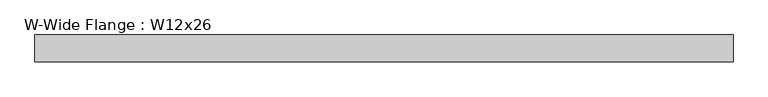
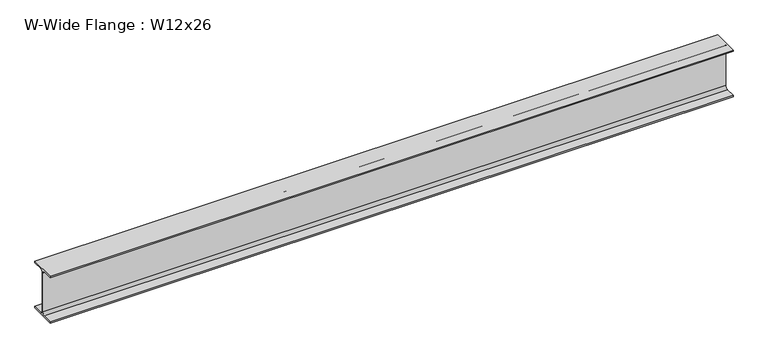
"""IFC4 building model written with IfcOpenShell, lengths in millimetres: beam geometry, W-Wide Flange : W12x26."""

from ifc_helpers import new_model, si_unit, point, frame, frame_2d, origin, place, context, project, spatial, polyline, circle_curve, trimmed, segment, composite_curve, outline, extrude, source, transform, mapped, element, save


def w_wide_flange_w12x26_6214fc0f(model_context):
    return source(origin(), model_context, "Body", "SweptSolid", [
        extrude(outline(composite_curve([segment(polyline([(82.423, -145.288), (82.423, -154.94), (-82.423, -154.94), (-82.423, -145.288), (-20.2565, -145.288)]), True, "CONTINUOUS"), segment(trimmed(circle_curve(frame_2d((-20.2565, -127.9525)), 17.3355), [point((-20.2565, -145.288))], [point((-2.921, -127.9525))], True, "CARTESIAN"), True, "CONTINUOUS"), segment(polyline([(-2.921, -127.9525), (-2.921, 127.9525)]), True, "CONTINUOUS"), segment(trimmed(circle_curve(frame_2d((-20.2565, 127.9525)), 17.3355), [point((-2.921, 127.9525))], [point((-20.2565, 145.288))], True, "CARTESIAN"), True, "CONTINUOUS"), segment(polyline([(-20.2565, 145.288), (-82.423, 145.288), (-82.423, 154.94), (82.423, 154.94), (82.423, 145.288), (20.2565, 145.288)]), True, "CONTINUOUS"), segment(trimmed(circle_curve(frame_2d((20.2565, 127.9525)), 17.3355), [point((20.2565, 145.288))], [point((2.921, 127.9525))], True, "CARTESIAN"), True, "CONTINUOUS"), segment(polyline([(2.921, 127.9525), (2.921, -127.9525)]), True, "CONTINUOUS"), segment(trimmed(circle_curve(frame_2d((20.2565, -127.9525)), 17.3355), [point((2.921, -127.9525))], [point((20.2565, -145.288))], True, "CARTESIAN"), True, "CONTINUOUS"), segment(polyline([(20.2565, -145.288), (82.423, -145.288)]), True, "CONTINUOUS")], self_intersect=False)), frame((-2063.75, 0.0, 0.0), z_axis=(1.0, 0.0, 0.0), x_axis=(0.0, 1.0, 0.0)), (0.0, 0.0, 1.0), 4273.55),
    ])


if __name__ == "__main__":
    model = new_model("IFC4")
    model_context = context("Model", 3, world=origin())
    ifc_project = project(units=[si_unit("LENGTHUNIT", "METRE", prefix="MILLI")], contexts=[model_context])
    site = spatial("IfcSite", under=ifc_project)
    building = spatial("IfcBuilding", under=site)
    placement = place(None, origin())
    w_wide_flange_w12x26_shape = w_wide_flange_w12x26_6214fc0f(model_context)
    element("IfcBeam", 1, ObjectType="W-Wide Flange : W12x26", at=placement, inside=building, context=model_context, shape_type="MappedRepresentation", body=[
        mapped(w_wide_flange_w12x26_shape, transform((0.0, 0.0, 0.0), x_axis=(1.0, 0.0, 0.0), y_axis=(0.0, 1.0, 0.0), z_axis=(0.0, 0.0, 1.0))),
    ])
    save(model, "model.ifc")
